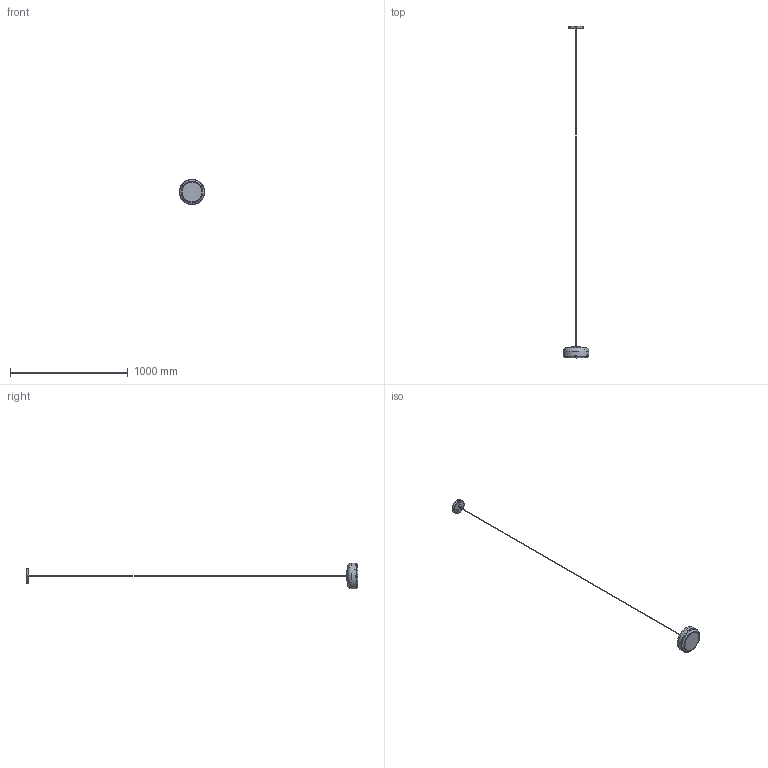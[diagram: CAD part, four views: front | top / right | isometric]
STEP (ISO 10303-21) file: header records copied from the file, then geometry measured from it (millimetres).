
FILE_DESCRIPTION(/* description */ ('','CAx-IF Rec.Pracs.---Representation and Presentation of Product Manufacturing Information (PMI)---4.0---2014-10-13'),/* implementation_level */ '2;1');
FILE_NAME(/* name */ 'C:\Users\KasperRoedWehage\Desktop\2441_Assembly.stp',/* time_stamp */ '2021-10-05T13:52:51+02:00',/* author */ ('KasperRoedWehage'),/* organization */ (''),/* preprocessor_version */ 'ST-DEVELOPER v18.1',/* originating_system */ 'Autodesk Inventor 2022',/* authorisation */ '');
FILE_SCHEMA (('AP242_MANAGED_MODEL_BASED_3D_ENGINEERING_MIM_LF { 1 0 10303 442 1 1 4 }'));
Products named in the file (36): 2441; 2441CP03; 2441CP05; 2441AS02; 2441CP06; 2440CP38; 2441CP12; 2441CP11; 2440CP11; 2441CP09; 2441AS01; 2441CP02; 2441CP01; 2440CP16; 2440CP18; 2440AS04; 2440CP19; 2440CP21; 2440CP32; 2440BP01; 2440CP20; 2440CP22; 2440CP25; 2440CP23; 2440CP24; 2440CP26; 2440CP27; 2441CP08; 2440CP31; 2440CP33; 2441CP04; 2440CP10; 2441CP13; 2440CP37; 2441CP14; 2440CP36
Assembly tree (47 placements, depth 3):
  2441
    2441CP03
    2441CP05
    2441AS02
      2441CP06
      2440CP38
    2441CP12
    2441CP11
    2440CP11  x3
    2441CP09
    2441AS01
      2441CP02
      2441CP01
      2440CP16
    2440CP18
    2440AS04
      2440CP19
      2440CP21
      2440CP32  x2
      2440BP01
    2440CP20
    2440CP22  x2
    2440CP25
    2440CP23
    2440CP24
    2440CP26
    2440CP27
    2441CP08
    2440CP31  x4
    2440CP33  x2
    2441CP04
    2440CP10
    2441CP13
    2440CP37
    2441CP14  x3
    2440CP36  x3
Bounding box: 219.81 x 2819.97 x 219.81 mm (x, y, z)
Volume: 648332.7 mm3; surface area: 1050149.5 mm2
Topology: 105 solids, 119 shells, 2611 faces, 6707 edges, 4400 vertices
Faces by surface type: plane 1692, cylinder 530, cone 216, torus 117, sphere 30, bspline 26
Full cylindrical faces by diameter (mm): 1.5 x4, 1.7 x6, 2 x2, 2.459 x7, 2.5 x6, 2.6 x2, 2.729 x1, 2.75 x4, 3 x9, 3.1 x4, 3.242 x9, 3.459 x2, 3.75 x3, 4 x14, 4.917 x1, 5 x4, 5.8 x4, 6 x23, 6.3 x4, 7 x2, 7.2 x3, 8 x4, 8.376 x1, 8.5 x1, 9.5 x4, 10 x5, 10.5 x2, 12 x2, 14 x1, 15 x1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
Entity records: 81579 total; most frequent: CARTESIAN_POINT 17843, DIRECTION 12857, ORIENTED_EDGE 11276, EDGE_CURVE 5696, AXIS2_PLACEMENT_3D 4437, LINE 3983, VECTOR 3983, VERTEX_POINT 3749
